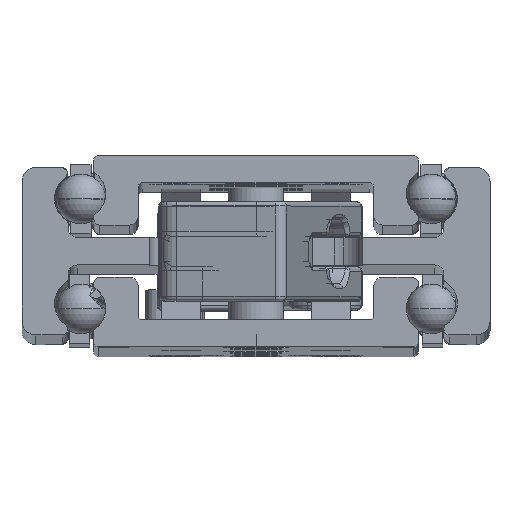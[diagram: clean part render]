
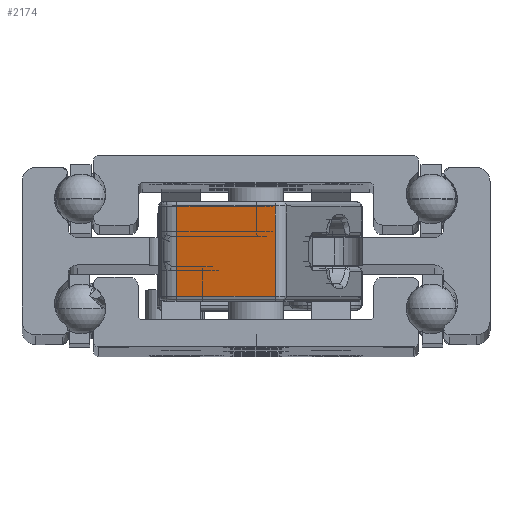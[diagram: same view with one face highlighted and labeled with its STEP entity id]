
A CAD part, top view. The second image highlights one B-rep face of the part: STEP entity #2174.
In plain terms, the highlighted planar face has unit normal (-0.225, 0, 0.974) as drawn and (-1, 0, 0) by its records, which use the part's own axes.
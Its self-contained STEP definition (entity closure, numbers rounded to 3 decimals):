
#1809 = DIRECTION ( 'NONE',  ( 1., 0., 0. ) ) ;
#2168 = VECTOR ( 'NONE', #20293, 1000. ) ;
#2174 = ADVANCED_FACE ( 'NONE', ( #11852 ), #4201, .F. ) ;
#2337 = ORIENTED_EDGE ( 'NONE', *, *, #2912, .T. ) ;
#2912 = EDGE_CURVE ( 'NONE', #7367, #23928, #4244, .T. ) ;
#3465 = CARTESIAN_POINT ( 'NONE',  ( -37., -3., 4.9 ) ) ;
#4201 = PLANE ( 'NONE',  #30758 ) ;
#4244 = LINE ( 'NONE', #29028, #9517 ) ;
#5100 = DIRECTION ( 'NONE',  ( 0., 0., 1. ) ) ;
#7367 = VERTEX_POINT ( 'NONE', #12564 ) ;
#8426 = CARTESIAN_POINT ( 'NONE',  ( -37., -3., -4.9 ) ) ;
#9517 = VECTOR ( 'NONE', #13951, 1000. ) ;
#10266 = LINE ( 'NONE', #22971, #2168 ) ;
#11526 = DIRECTION ( 'NONE',  ( 0., 1., 0. ) ) ;
#11852 = FACE_OUTER_BOUND ( 'NONE', #19261, .T. ) ;
#12122 = LINE ( 'NONE', #22120, #13382 ) ;
#12564 = CARTESIAN_POINT ( 'NONE',  ( -37., 8., 4.9 ) ) ;
#13114 = VECTOR ( 'NONE', #29909, 1000. ) ;
#13382 = VECTOR ( 'NONE', #5100, 1000. ) ;
#13563 = CARTESIAN_POINT ( 'NONE',  ( -37., 8., -4.9 ) ) ;
#13914 = CARTESIAN_POINT ( 'NONE',  ( -37., -4., 5.4 ) ) ;
#13951 = DIRECTION ( 'NONE',  ( 0., 0., -1. ) ) ;
#14798 = EDGE_CURVE ( 'NONE', #23928, #15456, #10266, .T. ) ;
#15187 = EDGE_CURVE ( 'NONE', #15456, #18957, #12122, .T. ) ;
#15456 = VERTEX_POINT ( 'NONE', #8426 ) ;
#18957 = VERTEX_POINT ( 'NONE', #3465 ) ;
#19261 = EDGE_LOOP ( 'NONE', ( #2337, #26590, #29963, #19715 ) ) ;
#19715 = ORIENTED_EDGE ( 'NONE', *, *, #25759, .T. ) ;
#20259 = LINE ( 'NONE', #20417, #13114 ) ;
#20293 = DIRECTION ( 'NONE',  ( 0., -1., 0. ) ) ;
#20417 = CARTESIAN_POINT ( 'NONE',  ( -37., 8., 4.9 ) ) ;
#22120 = CARTESIAN_POINT ( 'NONE',  ( -37., -3., 5.4 ) ) ;
#22971 = CARTESIAN_POINT ( 'NONE',  ( -37., -4., -4.9 ) ) ;
#23928 = VERTEX_POINT ( 'NONE', #13563 ) ;
#25759 = EDGE_CURVE ( 'NONE', #18957, #7367, #20259, .T. ) ;
#26590 = ORIENTED_EDGE ( 'NONE', *, *, #14798, .T. ) ;
#29028 = CARTESIAN_POINT ( 'NONE',  ( -37., 8., 5.4 ) ) ;
#29909 = DIRECTION ( 'NONE',  ( 0., 1., 0. ) ) ;
#29963 = ORIENTED_EDGE ( 'NONE', *, *, #15187, .T. ) ;
#30758 = AXIS2_PLACEMENT_3D ( 'NONE', #13914, #1809, #11526 ) ;
